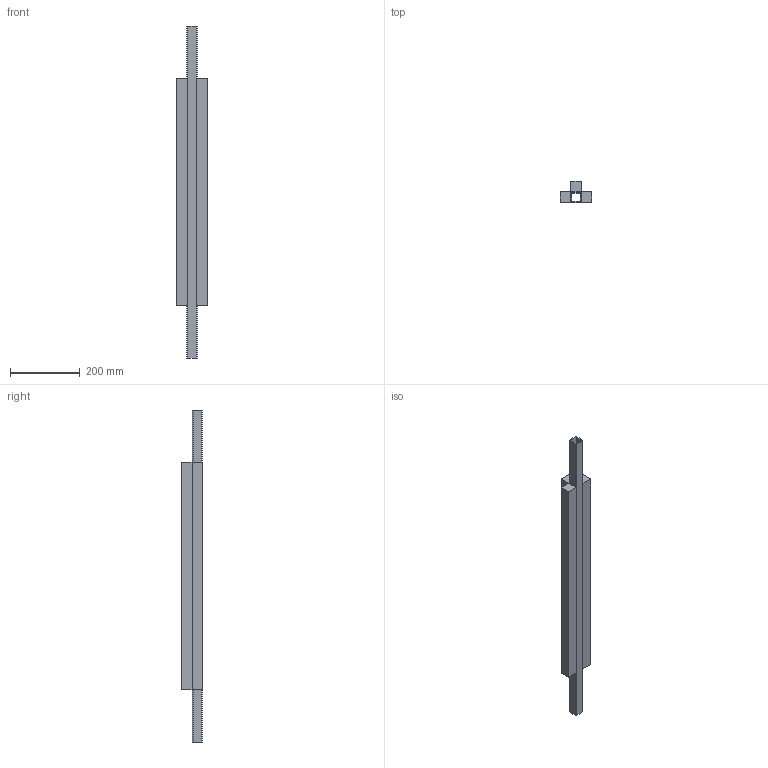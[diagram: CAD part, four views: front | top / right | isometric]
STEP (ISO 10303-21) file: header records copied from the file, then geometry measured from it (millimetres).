
FILE_DESCRIPTION (( 'STEP AP214' ), '1' );
FILE_NAME ('0003231_0_00.step', '2018-07-12T08:38:53', ( '' ), ( '' ), 'SwSTEP 2.0', 'SolidWorks 2018', '' );
FILE_SCHEMA (( 'AUTOMOTIVE_DESIGN' ));
Length unit declared in the file: millimetre
Products named in the file (3): 0003231_0_00; 0003231_0_02_3 lame L=650; 0003231_0_01_3 lame L=650
Assembly tree (2 placements, depth 2):
  0003231_0_00
    0003231_0_01_3 lame L=650
    0003231_0_02_3 lame L=650
Bounding box: 90 x 60 x 950 mm (x, y, z)
Volume: 2060482.3 mm3; surface area: 444807.3 mm2
Topology: 2 solids, 2 shells, 32 faces, 84 edges, 56 vertices
Faces by surface type: plane 24, cylinder 8
Entity records: 1450 total; most frequent: CARTESIAN_POINT 177, DIRECTION 174, ORIENTED_EDGE 168, EDGE_CURVE 84, LINE 68, VECTOR 68, VERTEX_POINT 56, AXIS2_PLACEMENT_3D 53
